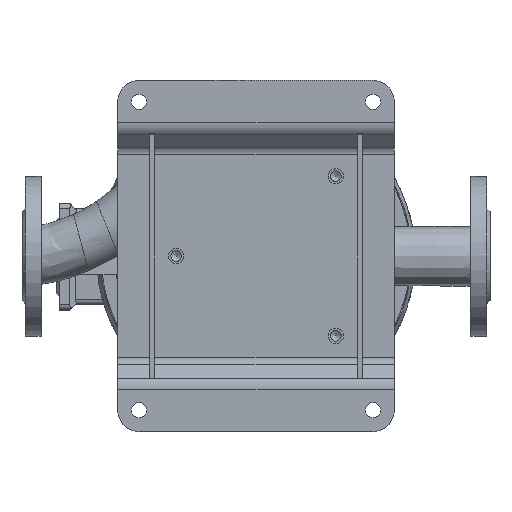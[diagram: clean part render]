
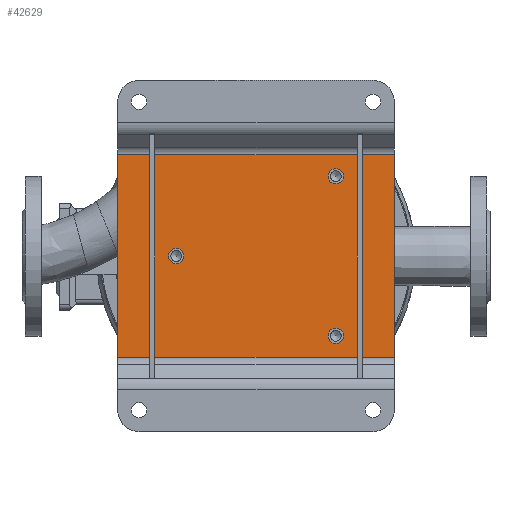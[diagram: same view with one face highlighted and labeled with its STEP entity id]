
A CAD part, top view. The second image highlights one B-rep face of the part: STEP entity #42629.
In plain terms, the highlighted planar face has unit normal (0, 0, 1) as drawn and (0, -1, 0) by its records, which use the part's own axes.
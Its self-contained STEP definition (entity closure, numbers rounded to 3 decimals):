
#23 = VERTEX_POINT ( 'NONE', #47435 ) ;
#333 = CARTESIAN_POINT ( 'NONE',  ( 75., -5., 75. ) ) ;
#394 = EDGE_CURVE ( 'NONE', #494, #38473, #7413, .T. ) ;
#494 = VERTEX_POINT ( 'NONE', #29139 ) ;
#1412 = EDGE_LOOP ( 'NONE', ( #38334, #40987, #34335, #6887 ) ) ;
#2383 = VERTEX_POINT ( 'NONE', #51783 ) ;
#3295 = DIRECTION ( 'NONE',  ( 0., -1., 0. ) ) ;
#3569 = DIRECTION ( 'NONE',  ( 0., 0., -1. ) ) ;
#5226 = EDGE_CURVE ( 'NONE', #23, #44618, #32336, .T. ) ;
#5702 = EDGE_CURVE ( 'NONE', #35672, #35672, #45191, .T. ) ;
#5971 = CARTESIAN_POINT ( 'NONE',  ( -95., -5., -130. ) ) ;
#6584 = AXIS2_PLACEMENT_3D ( 'NONE', #46934, #18202, #21972 ) ;
#6887 = ORIENTED_EDGE ( 'NONE', *, *, #22506, .F. ) ;
#7413 = LINE ( 'NONE', #7922, #26729 ) ;
#7597 = FACE_BOUND ( 'NONE', #37974, .T. ) ;
#7922 = CARTESIAN_POINT ( 'NONE',  ( 95., -5., 130. ) ) ;
#9237 = CARTESIAN_POINT ( 'NONE',  ( -75., -5., 75. ) ) ;
#9906 = AXIS2_PLACEMENT_3D ( 'NONE', #333, #28028, #3569 ) ;
#10492 = EDGE_CURVE ( 'NONE', #2383, #2383, #12126, .T. ) ;
#10651 = VECTOR ( 'NONE', #44420, 1000. ) ;
#11147 = VECTOR ( 'NONE', #30691, 1000. ) ;
#11451 = ORIENTED_EDGE ( 'NONE', *, *, #44623, .F. ) ;
#12126 = CIRCLE ( 'NONE', #48175, 7.25 ) ;
#13533 = ORIENTED_EDGE ( 'NONE', *, *, #10492, .F. ) ;
#14211 = CARTESIAN_POINT ( 'NONE',  ( 0., -5., -82.25 ) ) ;
#15060 = DIRECTION ( 'NONE',  ( 0., 0., -1. ) ) ;
#18202 = DIRECTION ( 'NONE',  ( 0., -1., 0. ) ) ;
#18706 = VERTEX_POINT ( 'NONE', #35338 ) ;
#19646 = CARTESIAN_POINT ( 'NONE',  ( 95., -5., -130. ) ) ;
#19709 = CARTESIAN_POINT ( 'NONE',  ( -95., -5., 130. ) ) ;
#21034 = VECTOR ( 'NONE', #32832, 1000. ) ;
#21972 = DIRECTION ( 'NONE',  ( 0., 0., -1. ) ) ;
#22506 = EDGE_CURVE ( 'NONE', #38473, #23, #42771, .T. ) ;
#23993 = FACE_OUTER_BOUND ( 'NONE', #1412, .T. ) ;
#24243 = DIRECTION ( 'NONE',  ( 0., 0., -1. ) ) ;
#24786 = LINE ( 'NONE', #37658, #21034 ) ;
#26729 = VECTOR ( 'NONE', #27822, 1000. ) ;
#27822 = DIRECTION ( 'NONE',  ( 0., 0., -1. ) ) ;
#28028 = DIRECTION ( 'NONE',  ( 0., -1., 0. ) ) ;
#28043 = CARTESIAN_POINT ( 'NONE',  ( -95., -5., 130. ) ) ;
#29139 = CARTESIAN_POINT ( 'NONE',  ( 95., -5., 130. ) ) ;
#30691 = DIRECTION ( 'NONE',  ( -1., 0., 0. ) ) ;
#32336 = LINE ( 'NONE', #28043, #10651 ) ;
#32832 = DIRECTION ( 'NONE',  ( 1., 0., 0. ) ) ;
#33919 = CIRCLE ( 'NONE', #9906, 7.25 ) ;
#34335 = ORIENTED_EDGE ( 'NONE', *, *, #5226, .F. ) ;
#35103 = EDGE_LOOP ( 'NONE', ( #11451 ) ) ;
#35338 = CARTESIAN_POINT ( 'NONE',  ( 75., -5., 67.75 ) ) ;
#35672 = VERTEX_POINT ( 'NONE', #14211 ) ;
#36524 = EDGE_CURVE ( 'NONE', #44618, #494, #24786, .T. ) ;
#37266 = AXIS2_PLACEMENT_3D ( 'NONE', #52704, #3295, #24243 ) ;
#37658 = CARTESIAN_POINT ( 'NONE',  ( -95., -5., 130. ) ) ;
#37713 = DIRECTION ( 'NONE',  ( 0., -1., 0. ) ) ;
#37974 = EDGE_LOOP ( 'NONE', ( #50252 ) ) ;
#38334 = ORIENTED_EDGE ( 'NONE', *, *, #394, .F. ) ;
#38473 = VERTEX_POINT ( 'NONE', #19646 ) ;
#40103 = FACE_BOUND ( 'NONE', #47945, .T. ) ;
#40987 = ORIENTED_EDGE ( 'NONE', *, *, #36524, .F. ) ;
#42629 = ADVANCED_FACE ( 'NONE', ( #44651, #7597, #40103, #23993 ), #52182, .T. ) ;
#42771 = LINE ( 'NONE', #5971, #11147 ) ;
#44420 = DIRECTION ( 'NONE',  ( 0., 0., 1. ) ) ;
#44618 = VERTEX_POINT ( 'NONE', #19709 ) ;
#44623 = EDGE_CURVE ( 'NONE', #18706, #18706, #33919, .T. ) ;
#44651 = FACE_BOUND ( 'NONE', #35103, .T. ) ;
#45191 = CIRCLE ( 'NONE', #6584, 7.25 ) ;
#46934 = CARTESIAN_POINT ( 'NONE',  ( 0., -5., -75. ) ) ;
#47435 = CARTESIAN_POINT ( 'NONE',  ( -95., -5., -130. ) ) ;
#47945 = EDGE_LOOP ( 'NONE', ( #13533 ) ) ;
#48175 = AXIS2_PLACEMENT_3D ( 'NONE', #9237, #37713, #15060 ) ;
#50252 = ORIENTED_EDGE ( 'NONE', *, *, #5702, .F. ) ;
#51783 = CARTESIAN_POINT ( 'NONE',  ( -75., -5., 67.75 ) ) ;
#52182 = PLANE ( 'NONE',  #37266 ) ;
#52704 = CARTESIAN_POINT ( 'NONE',  ( 0., -5., 0. ) ) ;
